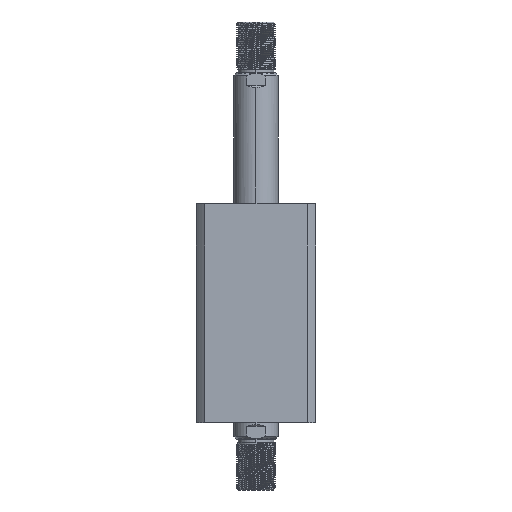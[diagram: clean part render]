
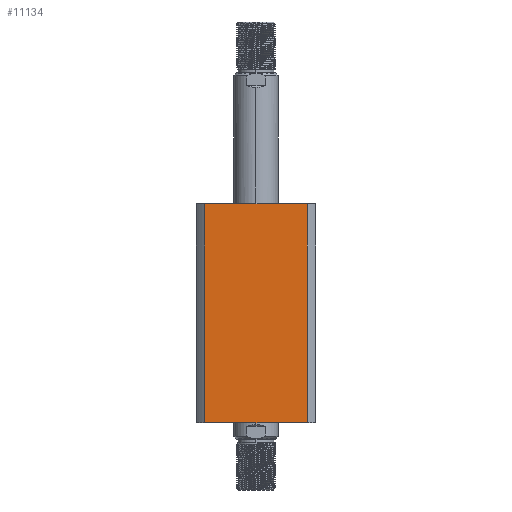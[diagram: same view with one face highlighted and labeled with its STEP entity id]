
A CAD part, left-side view. The second image highlights one B-rep face of the part: STEP entity #11134.
In plain terms, the highlighted planar face has unit normal (-1, 0, 0).
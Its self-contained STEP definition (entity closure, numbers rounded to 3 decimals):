
#452 = CARTESIAN_POINT ( 'NONE',  ( -47., 40.435, 300. ) ) ;
#2440 = DIRECTION ( 'NONE',  ( 0., -1., 0. ) ) ;
#3560 = EDGE_CURVE ( 'NONE', #22927, #23963, #18733, .T. ) ;
#4022 = ORIENTED_EDGE ( 'NONE', *, *, #9426, .T. ) ;
#4648 = CARTESIAN_POINT ( 'NONE',  ( -47., -40.435, 172. ) ) ;
#4754 = DIRECTION ( 'NONE',  ( 0., 0., 1. ) ) ;
#5237 = VERTEX_POINT ( 'NONE', #21578 ) ;
#5462 = DIRECTION ( 'NONE',  ( 0., 0., -1. ) ) ;
#7938 = VERTEX_POINT ( 'NONE', #14390 ) ;
#8209 = VECTOR ( 'NONE', #2440, 1000. ) ;
#8734 = ORIENTED_EDGE ( 'NONE', *, *, #20872, .F. ) ;
#9119 = VECTOR ( 'NONE', #9167, 1000. ) ;
#9167 = DIRECTION ( 'NONE',  ( 0., -1., 0. ) ) ;
#9426 = EDGE_CURVE ( 'NONE', #7938, #23963, #24532, .T. ) ;
#9783 = LINE ( 'NONE', #24051, #9119 ) ;
#11134 = ADVANCED_FACE ( 'NONE', ( #11837 ), #19928, .F. ) ;
#11715 = AXIS2_PLACEMENT_3D ( 'NONE', #24281, #26420, #13691 ) ;
#11837 = FACE_OUTER_BOUND ( 'NONE', #23554, .T. ) ;
#11946 = EDGE_CURVE ( 'NONE', #7938, #5237, #27268, .T. ) ;
#13691 = DIRECTION ( 'NONE',  ( 0., 1., 0. ) ) ;
#14390 = CARTESIAN_POINT ( 'NONE',  ( -47., 40.435, 0. ) ) ;
#15308 = VECTOR ( 'NONE', #4754, 1000. ) ;
#16127 = CARTESIAN_POINT ( 'NONE',  ( -47., -40.435, 300. ) ) ;
#17410 = ORIENTED_EDGE ( 'NONE', *, *, #11946, .F. ) ;
#18733 = LINE ( 'NONE', #16127, #23701 ) ;
#19928 = PLANE ( 'NONE',  #11715 ) ;
#20872 = EDGE_CURVE ( 'NONE', #5237, #22927, #9783, .T. ) ;
#21578 = CARTESIAN_POINT ( 'NONE',  ( -47., 40.435, 172. ) ) ;
#22927 = VERTEX_POINT ( 'NONE', #4648 ) ;
#23554 = EDGE_LOOP ( 'NONE', ( #27258, #8734, #17410, #4022 ) ) ;
#23597 = CARTESIAN_POINT ( 'NONE',  ( -47., 47., 0. ) ) ;
#23701 = VECTOR ( 'NONE', #5462, 1000. ) ;
#23963 = VERTEX_POINT ( 'NONE', #24899 ) ;
#24051 = CARTESIAN_POINT ( 'NONE',  ( -47., 47., 172. ) ) ;
#24281 = CARTESIAN_POINT ( 'NONE',  ( -47., 47., 172. ) ) ;
#24532 = LINE ( 'NONE', #23597, #8209 ) ;
#24899 = CARTESIAN_POINT ( 'NONE',  ( -47., -40.435, 0. ) ) ;
#26420 = DIRECTION ( 'NONE',  ( 1., 0., 0. ) ) ;
#27258 = ORIENTED_EDGE ( 'NONE', *, *, #3560, .F. ) ;
#27268 = LINE ( 'NONE', #452, #15308 ) ;
